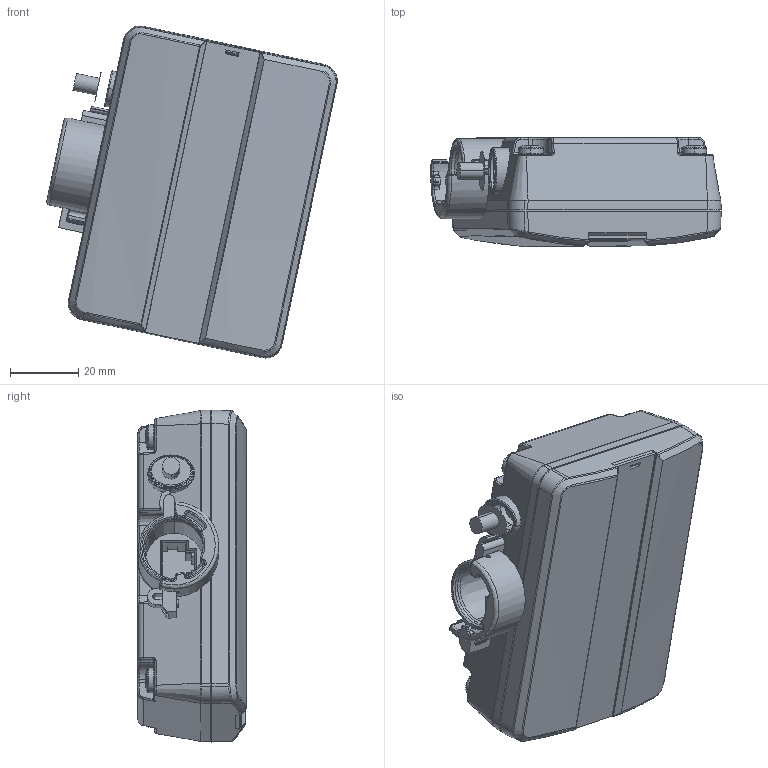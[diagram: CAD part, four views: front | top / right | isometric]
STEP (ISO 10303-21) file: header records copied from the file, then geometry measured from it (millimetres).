
FILE_DESCRIPTION (( 'STEP AP203' ), '1' );
FILE_NAME ('3D_TRF2.STEP', '2017-07-07T06:24:31', ( '' ), ( '' ), 'SwSTEP 2.0', 'SolidWorks 2015', '' );
FILE_SCHEMA (( 'CONFIG_CONTROL_DESIGN' ));
Length unit declared in the file: millimetre
Products named in the file (1): 3D_TRF2
Bounding box: 85.3 x 31.87 x 97.48 mm (x, y, z)
Surface area: 44212.7 mm2 (no closed solid volume)
Topology: 0 solids, 16 shells, 828 faces, 2072 edges, 1302 vertices
Faces by surface type: plane 315, cylinder 247, bspline 146, torus 68, cone 47, sphere 5
Entity records: 74913 total; most frequent: CARTESIAN_POINT 56213, ORIENTED_EDGE 4122, DIRECTION 3425, EDGE_CURVE 2070, VERTEX_POINT 1301, AXIS2_PLACEMENT_3D 1182, VECTOR 1061, LINE 1061
